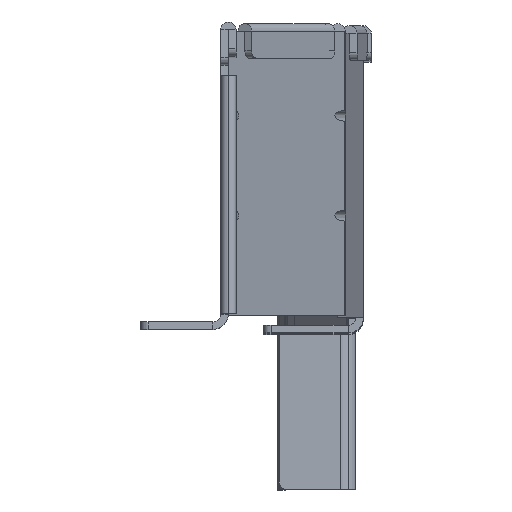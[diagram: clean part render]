
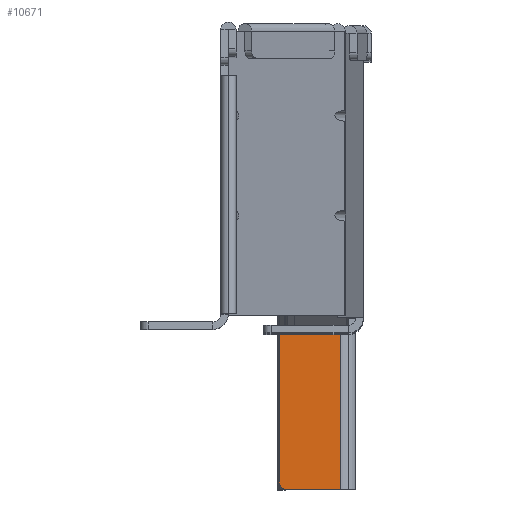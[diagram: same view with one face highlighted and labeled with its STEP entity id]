
A CAD part, top view. The second image highlights one B-rep face of the part: STEP entity #10671.
In plain terms, the highlighted planar face has unit normal (0, 0, 1).
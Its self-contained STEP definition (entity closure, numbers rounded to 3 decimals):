
#8813=DIRECTION('',(0.,1.,0.));
#8814=VECTOR('',#8813,21.1);
#8815=CARTESIAN_POINT('',(-119.,23.4,-435.3));
#8816=LINE('',#8815,#8814);
#8820=CARTESIAN_POINT('',(-126.,43.5,-435.3));
#8821=DIRECTION('',(0.,0.,-1.));
#8822=DIRECTION('',(-1.,0.,0.));
#8823=AXIS2_PLACEMENT_3D('',#8820,#8821,#8822);
#8828=DIRECTION('',(1.,0.,0.));
#8829=VECTOR('',#8828,7.);
#8830=CARTESIAN_POINT('',(-126.,44.5,-435.3));
#8831=LINE('',#8830,#8829);
#8835=DIRECTION('',(-1.,0.,0.));
#8836=VECTOR('',#8835,7.);
#8837=CARTESIAN_POINT('',(-119.,23.4,-435.3));
#8838=LINE('',#8837,#8836);
#8842=CARTESIAN_POINT('',(-126.,24.4,-435.3));
#8843=DIRECTION('',(0.,0.,-1.));
#8844=DIRECTION('',(0.,-1.,0.));
#8845=AXIS2_PLACEMENT_3D('',#8842,#8843,#8844);
#8850=DIRECTION('',(0.,1.,0.));
#8851=VECTOR('',#8850,19.1);
#8852=CARTESIAN_POINT('',(-127.,24.4,-435.3));
#8853=LINE('',#8852,#8851);
#9337=CARTESIAN_POINT('',(-119.,44.5,-435.3));
#9338=VERTEX_POINT('',#9337);
#9341=CARTESIAN_POINT('',(-119.,23.4,-435.3));
#9342=VERTEX_POINT('',#9341);
#9388=CARTESIAN_POINT('',(-127.,43.5,-435.3));
#9389=CARTESIAN_POINT('',(-126.,44.5,-435.3));
#9390=VERTEX_POINT('',#9388);
#9391=VERTEX_POINT('',#9389);
#9392=CARTESIAN_POINT('',(-126.,23.4,-435.3));
#9393=VERTEX_POINT('',#9392);
#9394=CARTESIAN_POINT('',(-127.,24.4,-435.3));
#9395=VERTEX_POINT('',#9394);
#10653=CARTESIAN_POINT('',(-117.,44.5,-435.3));
#10654=DIRECTION('',(0.,0.,1.));
#10655=DIRECTION('',(0.,1.,0.));
#10656=AXIS2_PLACEMENT_3D('',#10653,#10654,#10655);
#10657=PLANE('',#10656);
#10659=ORIENTED_EDGE('',*,*,#10658,.T.);
#10661=ORIENTED_EDGE('',*,*,#10660,.T.);
#10662=ORIENTED_EDGE('',*,*,#10646,.F.);
#10664=ORIENTED_EDGE('',*,*,#10663,.T.);
#10666=ORIENTED_EDGE('',*,*,#10665,.T.);
#10668=ORIENTED_EDGE('',*,*,#10667,.T.);
#10669=EDGE_LOOP('',(#10659,#10661,#10662,#10664,#10666,#10668));
#10670=FACE_OUTER_BOUND('',#10669,.F.);
#8824=CIRCLE('',#8823,1.);
#8846=CIRCLE('',#8845,1.);
#10646=EDGE_CURVE('',#9342,#9338,#8816,.T.);
#10658=EDGE_CURVE('',#9390,#9391,#8824,.T.);
#10660=EDGE_CURVE('',#9391,#9338,#8831,.T.);
#10663=EDGE_CURVE('',#9342,#9393,#8838,.T.);
#10665=EDGE_CURVE('',#9393,#9395,#8846,.T.);
#10667=EDGE_CURVE('',#9395,#9390,#8853,.T.);
#10671=ADVANCED_FACE('',(#10670),#10657,.T.);
